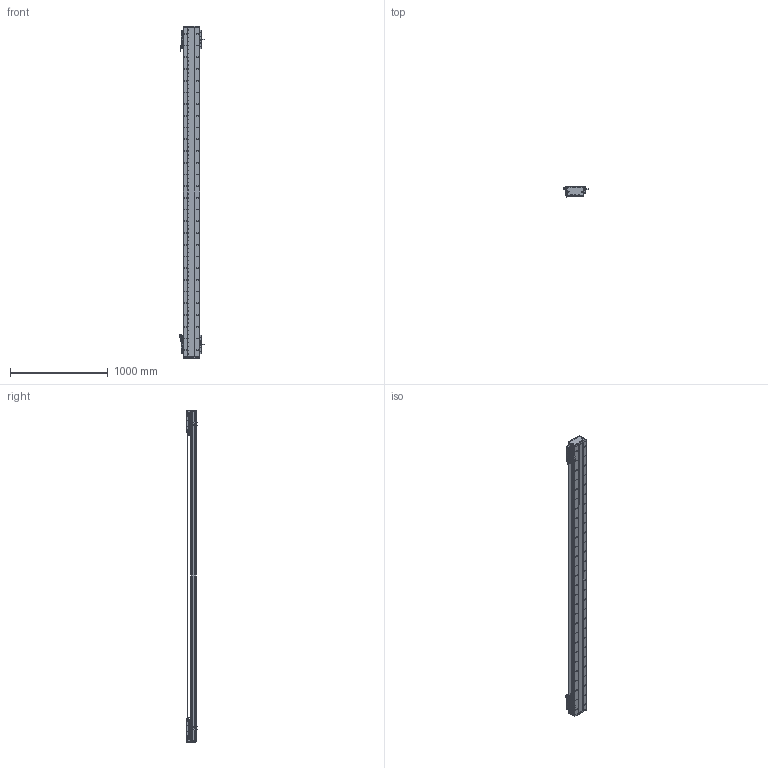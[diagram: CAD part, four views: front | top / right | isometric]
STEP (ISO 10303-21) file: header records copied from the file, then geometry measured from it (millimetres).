
FILE_DESCRIPTION (( 'STEP AP203' ), '1' );
FILE_NAME ('DA-C165-2-C2-T2900-C010-0.2 直线电机.STEP', '2023-05-11T08:32:19', ( '微软用户' ), ( '微软中国' ), 'SwSTEP 2.0', 'SolidWorks 2019', '' );
FILE_SCHEMA (( 'CONFIG_CONTROL_DESIGN' ));
Length unit declared in the file: millimetre
Products named in the file (22): 复件 DA95-HXJ-00 缓冲橡胶^DA-C165-C2-T-C010-0.2-N 直线电机; 葩璃 PM-T45^DA-C165-C2-T-C010-0.2-N 眻盄萇儂; DA-C165-2-C2-T2900-C010-0.2 眻盄萇儂; 复件 DA165-GDLK-00 钢带拉块^复件 CU165钢带组件_DA-C165-C2-T-C010-0.2-N 直线电机; IU-CU165-L 菁釱絳寢; 复件 DA126-GYP-ZJ-00 中间光电感应片^DA-C165-C2-T-C010-0.2-N 直线电机; 复件 66338-1000-006-00 光电感应块^DA-C165-C2-T-C010-0.2-N 直线电机; 复件 DKW-HXJ-JY-00 缓冲橡胶^DA-C165-C2-T-C010-0.2-N 直线电机; 葩璃 DA95-GT-T-00^IU-CU165-L 菁釱絳寢_T; 复件 DA165-GD-1860-002-00 钢带盖板^复件 CU165钢带组件_DA-C165-C2-T-C010-0.2-N 直线电机; 复件 CU165钢带组件^DA-C165-C2-T-C010-0.2-N 直线电机; IU-CU165-L-00 菁釱_L3360; 复件 DA165-GYP-00 光电感应片^DA-C165-C2-T-C010-0.2-N 直线电机; 珨极趙賑雄怢啣wf-C2; 复件 DMA-010-0.2 读数头^DA-C165-C2-T-C010-0.2-N 直线电机; 复件 XD-U-02L 磁栅尺^DA-C165-C2-T-C010-0.2-N 直线电机_T; 复件 六角薄螺母 M3^DA-C165-C2-T-C010-0.2-N 直线电机_GB_FASTENER_NUT_STNAB M3-C; 复件 DA165-GD-DG-H-00 端盖^复件 CU165钢带组件_DA-C165-C2-T-C010-0.2-N 直线电机; 复件 DA165-GDYK-00 钢带压块^复件 CU165钢带组件_DA-C165-C2-T-C010-0.2-N 直线电机; 复件 CKM02-W075-C1C2-TP-3.0 一体电机-C2^DA-C165-C2-T-C010-0.2-N 直线电机; 葩璃 CKM01-W075-TRL^DA-C165-C2-T-C010-0.2-N 眻盄萇儂; 葩璃 PM-Y45^DA-C165-C2-T-C010-0.2-N 眻盄萇儂
Assembly tree (43 placements, depth 3):
  DA-C165-2-C2-T2900-C010-0.2 眻盄萇儂
    IU-CU165-L 菁釱絳寢
      IU-CU165-L-00 菁釱_L3360
      葩璃 DA95-GT-T-00^IU-CU165-L 菁釱絳寢_T  x4
    复件 XD-U-02L 磁栅尺^DA-C165-C2-T-C010-0.2-N 直线电机_T
    葩璃 PM-T45^DA-C165-C2-T-C010-0.2-N 眻盄萇儂  x4
    葩璃 CKM01-W075-TRL^DA-C165-C2-T-C010-0.2-N 眻盄萇儂
    复件 CU165钢带组件^DA-C165-C2-T-C010-0.2-N 直线电机
      复件 DA165-GD-DG-H-00 端盖^复件 CU165钢带组件_DA-C165-C2-T-C010-0.2-N 直线电机  x2
      复件 DA165-GDYK-00 钢带压块^复件 CU165钢带组件_DA-C165-C2-T-C010-0.2-N 直线电机  x2
      复件 DA165-GD-1860-002-00 钢带盖板^复件 CU165钢带组件_DA-C165-C2-T-C010-0.2-N 直线电机
      复件 DA165-GDLK-00 钢带拉块^复件 CU165钢带组件_DA-C165-C2-T-C010-0.2-N 直线电机  x2
    复件 DA95-HXJ-00 缓冲橡胶^DA-C165-C2-T-C010-0.2-N 直线电机  x4
    复件 CKM02-W075-C1C2-TP-3.0 一体电机-C2^DA-C165-C2-T-C010-0.2-N 直线电机  x2
    复件 DMA-010-0.2 读数头^DA-C165-C2-T-C010-0.2-N 直线电机  x2
    复件 DA165-GYP-00 光电感应片^DA-C165-C2-T-C010-0.2-N 直线电机  x2
    复件 66338-1000-006-00 光电感应块^DA-C165-C2-T-C010-0.2-N 直线电机
    葩璃 PM-Y45^DA-C165-C2-T-C010-0.2-N 眻盄萇儂
    复件 DA126-GYP-ZJ-00 中间光电感应片^DA-C165-C2-T-C010-0.2-N 直线电机
    复件 DKW-HXJ-JY-00 缓冲橡胶^DA-C165-C2-T-C010-0.2-N 直线电机  x2
    复件 六角薄螺母 M3^DA-C165-C2-T-C010-0.2-N 直线电机_GB_FASTENER_NUT_STNAB M3-C  x6
    珨极趙賑雄怢啣wf-C2  x2
Bounding box: 247.2 x 111.45 x 3400 mm (x, y, z)
Volume: 19895151.7 mm3; surface area: 5886927.8 mm2
Topology: 119 solids, 119 shells, 6035 faces, 17312 edges, 10984 vertices
Faces by surface type: cylinder 3412, plane 1831, cone 704, torus 80, sphere 8
Entity records: 155198 total; most frequent: CARTESIAN_POINT 43173, ORIENTED_EDGE 23568, DIRECTION 22286, EDGE_CURVE 11784, AXIS2_PLACEMENT_3D 8506, VERTEX_POINT 7721, EDGE_LOOP 5329, VECTOR 5274
